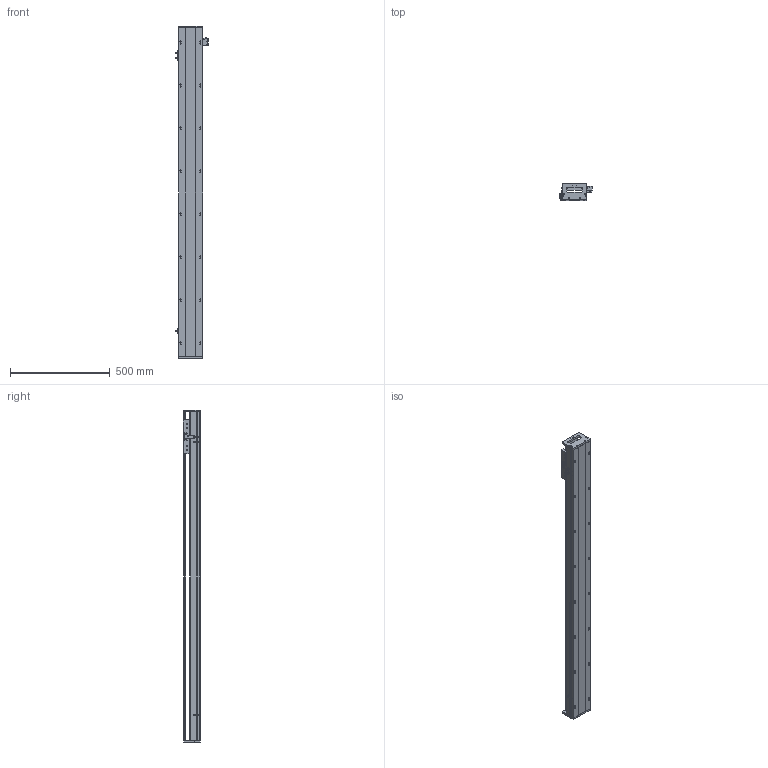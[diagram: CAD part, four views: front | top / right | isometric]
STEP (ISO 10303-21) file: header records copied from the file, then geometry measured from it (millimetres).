
FILE_DESCRIPTION (( 'STEP AP203' ), '1' );
FILE_NAME ('SKR12S-C1-S1398（简）.STEP', '2022-09-26T02:50:13', ( '' ), ( '' ), 'SwSTEP 2.0', 'SolidWorks 2018', '' );
FILE_SCHEMA (( 'CONFIG_CONTROL_DESIGN' ));
Length unit declared in the file: millimetre
Products named in the file (8): SKR12滑台-170L（简）; SKR12S-C1-S1398（简）; EE-SX672; 覜茼え; SKR12菁釱-C1-S1398(潠); 棠掑假蚾輸; SKR12耜啣; SIKO棠掑
Assembly tree (10 placements, depth 2):
  SKR12S-C1-S1398（简）
    SKR12菁釱-C1-S1398(潠)
    SKR12滑台-170L（简）
    SKR12耜啣  x2
    棠掑假蚾輸
    SIKO棠掑
    覜茼え
    EE-SX672  x3
Bounding box: 162.7 x 87.3 x 1668 mm (x, y, z)
Volume: 7282422.2 mm3; surface area: 1159347.5 mm2
Topology: 11 solids, 11 shells, 1038 faces, 2769 edges, 1749 vertices
Faces by surface type: cylinder 487, plane 409, cone 142
Entity records: 28689 total; most frequent: CARTESIAN_POINT 5943, DIRECTION 4699, ORIENTED_EDGE 4486, EDGE_CURVE 2243, AXIS2_PLACEMENT_3D 1745, VERTEX_POINT 1453, VECTOR 1209, LINE 1209
